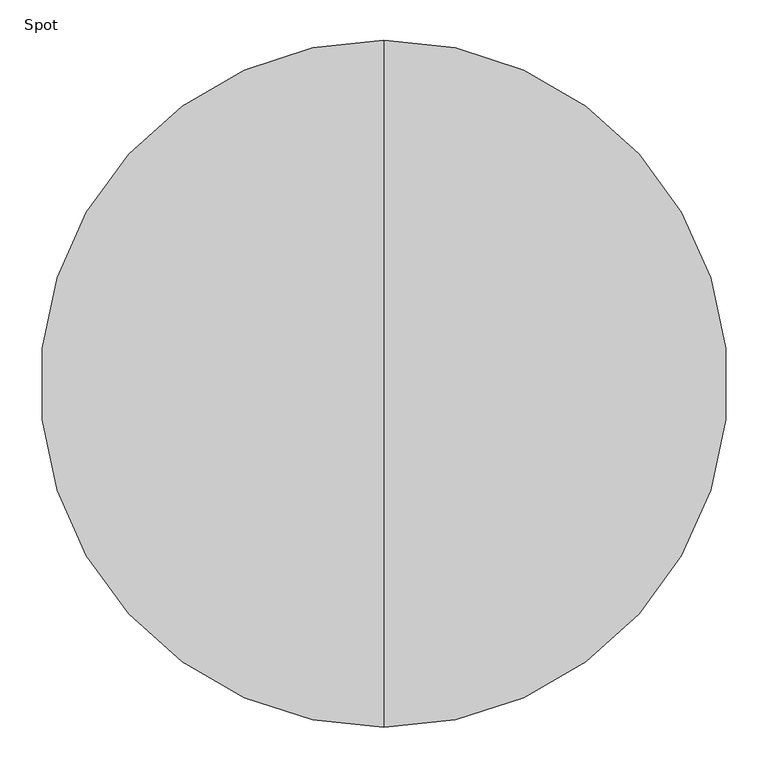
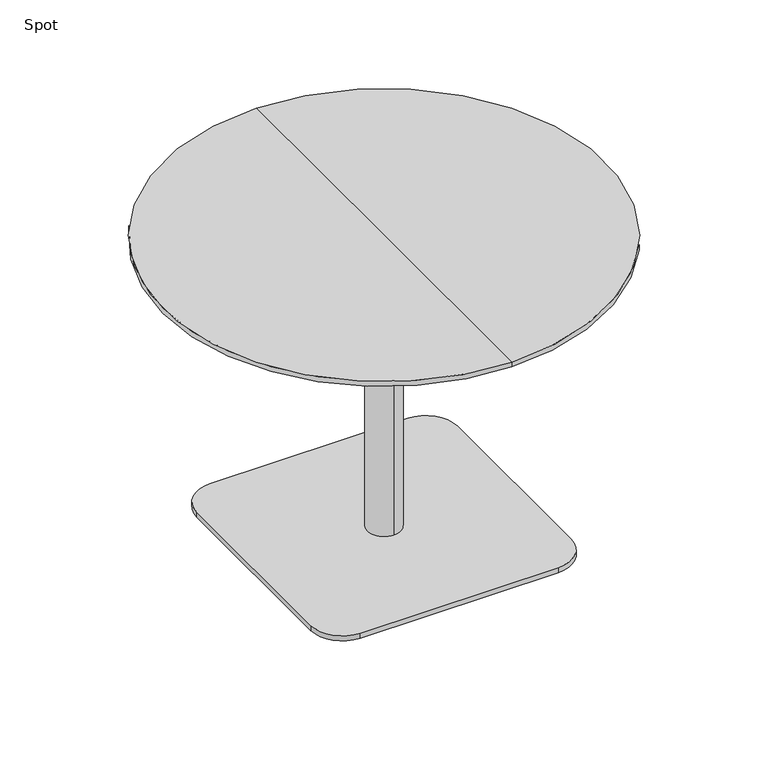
"""IFC4 building model written with IfcOpenShell, lengths in millimetres: furniture geometry, Spot : ø85x60s."""

from ifc_helpers import new_model, si_unit, point, frame, frame_2d, origin, origin_with_axes, place, context, project, spatial, polyline, circle_curve, trimmed, segment, composite_curve, outline, extrude, source, transform, mapped, element, save
from ifc_brep_helpers import plane_surface, cylinder_surface, revolved_surface, advanced_brep


def spot_5e38e100(model_context):
    return source(origin(), model_context, "Body", "SolidModel", [
        advanced_brep(
        [(0.0, 425.0, 600.0), (0.0, -425.0, 600.0), (0.0, 0.0, 600.0), (0.0, 425.0, 590.25), (0.0, -425.0, 590.25), (0.0, 379.2823776, 578.0), (0.0, -379.2823776, 578.0), (0.0, 0.0, 578.0)],
        [
            (0, 1, circle_curve(frame((0.0, 0.0, 600.0), z_axis=(0.0, 0.0, 1.0), x_axis=(0.0, -1.0, 0.0)), 425.0)),
            (1, 2),
            (2, 0),
            (1, 0, circle_curve(frame((0.0, 0.0, 600.0), z_axis=(0.0, 0.0, 1.0), x_axis=(0.0, -1.0, 0.0)), 425.0)),
            (3, 4, circle_curve(frame((0.0, 0.0, 590.25), z_axis=(0.0, 0.0, 1.0), x_axis=(0.0, -1.0, 0.0)), 425.0)),
            (4, 1),
            (0, 3),
            (4, 3, circle_curve(frame((0.0, 0.0, 590.25), z_axis=(0.0, 0.0, 1.0), x_axis=(0.0, -1.0, 0.0)), 425.0)),
            (5, 6, circle_curve(frame((0.0, 0.0, 578.0), z_axis=(0.0, 0.0, 1.0), x_axis=(0.0, -1.0, 0.0)), 379.2823776)),
            (6, 4),
            (3, 5),
            (6, 5, circle_curve(frame((0.0, 0.0, 578.0), z_axis=(0.0, 0.0, 1.0), x_axis=(0.0, -1.0, 0.0)), 379.2823776)),
            (7, 6),
            (5, 7),
        ],
        [
            plane_surface(frame((0.0, 0.0, 600.0), z_axis=(0.0, 0.0, 1.0), x_axis=(0.0, -1.0, 0.0))),
            cylinder_surface(frame((0.0, 0.0, 680.0), z_axis=(0.0, 0.0, -1.0), x_axis=(0.0, -1.0, 0.0)), 425.0),
            revolved_surface(polyline([(0.0, -425.0, 590.25), (0.0, -379.2823776, 578.0)]), (0.0, 0.0, 680.0), (0.0, 0.0, -1.0)),
            plane_surface(frame((0.0, 0.0, 578.0), z_axis=(0.0, 0.0, -1.0), x_axis=(0.0, -1.0, 0.0))),
        ],
        [
            (0, [[1, 2, 3]]),
            (0, [[4, -3, -2]]),
            (1, [[5, 6, -1, 7]]),
            (1, [[8, -7, -4, -6]]),
            (2, [[9, 10, -5, 11]]),
            (2, [[12, -11, -8, -10]]),
            (3, [[13, -9, 14]]),
            (3, [[-14, -12, -13]]),
        ],
    ),
        extrude(outline(composite_curve([segment(trimmed(circle_curve(frame_2d((190.0, 190.0)), 60.0), [point((190.0, 250.0))], [point((250.0, 190.0))], False, "CARTESIAN"), True, "CONTINUOUS"), segment(polyline([(250.0, 190.0), (250.0, -190.0)]), True, "CONTINUOUS"), segment(trimmed(circle_curve(frame_2d((190.0, -190.0)), 60.0), [point((250.0, -190.0))], [point((190.0, -250.0))], False, "CARTESIAN"), True, "CONTINUOUS"), segment(polyline([(190.0, -250.0), (-190.0, -250.0)]), True, "CONTINUOUS"), segment(trimmed(circle_curve(frame_2d((-190.0, -190.0)), 60.0), [point((-190.0, -250.0))], [point((-250.0, -190.0))], False, "CARTESIAN"), True, "CONTINUOUS"), segment(polyline([(-250.0, -190.0), (-250.0, 190.0)]), True, "CONTINUOUS"), segment(trimmed(circle_curve(frame_2d((-190.0, 190.0)), 60.0), [point((-250.0, 190.0))], [point((-190.0, 250.0))], False, "CARTESIAN"), True, "CONTINUOUS"), segment(polyline([(-190.0, 250.0), (190.0, 250.0)]), True, "CONTINUOUS")], self_intersect=False)), origin_with_axes(), (0.0, 0.0, 1.0), 10.0),
        advanced_brep(
        [(0.0, 32.0, 10.0), (0.0, -32.0, 10.0), (0.0, -32.0, 547.406916), (0.0, 32.0, 547.406916), (0.0, 0.0, 10.0), (0.0, 150.0, 578.0), (0.0, -150.0, 578.0), (0.0, 0.0, 578.0), (0.0, 150.0, 566.7213673), (0.0, -150.0, 566.7213673)],
        [
            (0, 1, circle_curve(frame((0.0, 0.0, 10.0), z_axis=(0.0, 0.0, 1.0), x_axis=(0.0, -1.0, 0.0)), 32.0)),
            (1, 2),
            (2, 3, circle_curve(frame((0.0, 0.0, 547.406916), z_axis=(0.0, 0.0, -1.0), x_axis=(0.0, -1.0, 0.0)), 32.0)),
            (3, 0),
            (1, 0, circle_curve(frame((0.0, 0.0, 10.0), z_axis=(0.0, 0.0, 1.0), x_axis=(0.0, -1.0, 0.0)), 32.0)),
            (3, 2, circle_curve(frame((0.0, 0.0, 547.406916), z_axis=(0.0, 0.0, -1.0), x_axis=(0.0, -1.0, 0.0)), 32.0)),
            (4, 1),
            (0, 4),
            (5, 6, circle_curve(frame((0.0, 0.0, 578.0), z_axis=(0.0, 0.0, 1.0), x_axis=(0.0, -1.0, 0.0)), 150.0)),
            (6, 7),
            (7, 5),
            (6, 5, circle_curve(frame((0.0, 0.0, 578.0), z_axis=(0.0, 0.0, 1.0), x_axis=(0.0, -1.0, 0.0)), 150.0)),
            (8, 9, circle_curve(frame((0.0, 0.0, 566.7213673), z_axis=(0.0, 0.0, 1.0), x_axis=(0.0, -1.0, 0.0)), 150.0)),
            (9, 6),
            (5, 8),
            (9, 8, circle_curve(frame((0.0, 0.0, 566.7213673), z_axis=(0.0, 0.0, 1.0), x_axis=(0.0, -1.0, 0.0)), 150.0)),
            (2, 9),
            (8, 3),
        ],
        [
            cylinder_surface(frame((0.0, 0.0, 940.0), z_axis=(0.0, 0.0, -1.0), x_axis=(0.0, -1.0, 0.0)), 32.0),
            plane_surface(frame((0.0, 0.0, 10.0), z_axis=(0.0, 0.0, -1.0), x_axis=(0.0, -1.0, 0.0))),
            plane_surface(frame((0.0, 0.0, 578.0), z_axis=(0.0, 0.0, 1.0), x_axis=(0.0, -1.0, 0.0))),
            cylinder_surface(frame((0.0, 0.0, 940.0), z_axis=(0.0, 0.0, -1.0), x_axis=(0.0, -1.0, 0.0)), 150.0),
            revolved_surface(polyline([(0.0, -150.0, 566.7213673), (0.0, -32.0, 547.406916)]), (0.0, 0.0, 940.0), (0.0, 0.0, -1.0)),
        ],
        [
            (0, [[1, 2, 3, 4]]),
            (0, [[5, -4, 6, -2]]),
            (1, [[7, -1, 8]]),
            (1, [[-8, -5, -7]]),
            (2, [[9, 10, 11]]),
            (2, [[12, -11, -10]]),
            (3, [[13, 14, -9, 15]]),
            (3, [[16, -15, -12, -14]]),
            (4, [[-3, 17, -13, 18]]),
            (4, [[-6, -18, -16, -17]]),
        ],
    ),
        extrude(outline(polyline([(0.0, 0.0), (-20.0, 0.0), (-20.0, 20.0), (0.0, 20.0), (0.0, 0.0)])), origin_with_axes(), (0.0, 0.0, 1.0), 10.0),
    ])


if __name__ == "__main__":
    model = new_model("IFC4")
    model_context = context("Model", 3, world=origin())
    ifc_project = project(units=[si_unit("LENGTHUNIT", "METRE", prefix="MILLI")], contexts=[model_context])
    site = spatial("IfcSite", under=ifc_project)
    building = spatial("IfcBuilding", under=site)
    placement = place(None, origin())
    spot_shape = spot_5e38e100(model_context)
    element("IfcFurniture", 1, ObjectType="Spot : ø85x60s", at=placement, inside=building, context=model_context, shape_type="MappedRepresentation", body=[
        mapped(spot_shape, transform((0.0, 0.0, 0.0), x_axis=(1.0, 0.0, 0.0), y_axis=(0.0, 1.0, 0.0), z_axis=(0.0, 0.0, 1.0))),
    ])
    save(model, "model.ifc")
